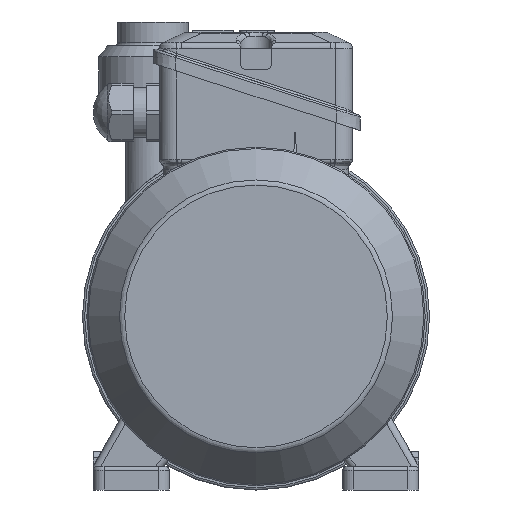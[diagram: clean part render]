
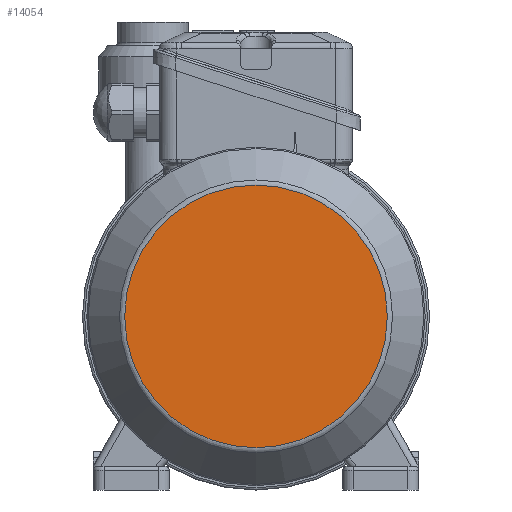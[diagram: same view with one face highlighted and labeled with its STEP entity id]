
A CAD part, left-side view. The second image highlights one B-rep face of the part: STEP entity #14054.
In plain terms, the highlighted planar face has unit normal (-1, 0, 0).
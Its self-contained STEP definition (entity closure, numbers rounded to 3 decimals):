
#3052=FACE_OUTER_BOUND('',#3832,.T.);
#3832=EDGE_LOOP('',(#10131,#10132));
#4673=CIRCLE('',#15223,60.537);
#4674=CIRCLE('',#15224,60.537);
#5677=VERTEX_POINT('',#22569);
#5678=VERTEX_POINT('',#22570);
#7297=EDGE_CURVE('',#5677,#5678,#4673,.T.);
#7298=EDGE_CURVE('',#5678,#5677,#4674,.T.);
#10131=ORIENTED_EDGE('',*,*,#7297,.F.);
#10132=ORIENTED_EDGE('',*,*,#7298,.F.);
#12767=PLANE('',#15222);
#14054=ADVANCED_FACE('',(#3052),#12767,.T.);
#15222=AXIS2_PLACEMENT_3D('',#22568,#17818,#17819);
#15223=AXIS2_PLACEMENT_3D('',#22571,#17820,#17821);
#15224=AXIS2_PLACEMENT_3D('',#22572,#17822,#17823);
#17818=DIRECTION('center_axis',(-1.,0.,0.));
#17819=DIRECTION('ref_axis',(0.,0.,
-1.));
#17820=DIRECTION('center_axis',(1.,0.,0.));
#17821=DIRECTION('ref_axis',(0.,0.,
1.));
#17822=DIRECTION('center_axis',(1.,0.,0.));
#17823=DIRECTION('ref_axis',(0.,0.,
1.));
#22568=CARTESIAN_POINT('Origin',(-160.,0.,60.537));
#22569=CARTESIAN_POINT('',(-160.,0.,60.537));
#22570=CARTESIAN_POINT('',(-160.,0.,-60.537));
#22571=CARTESIAN_POINT('Origin',(-160.,0.,0.));
#22572=CARTESIAN_POINT('Origin',(-160.,0.,0.));
